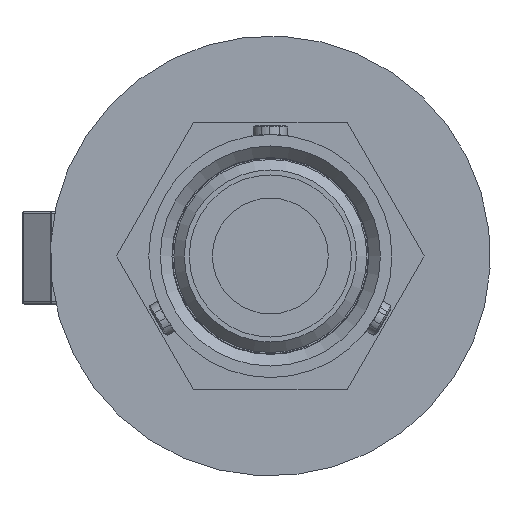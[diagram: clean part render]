
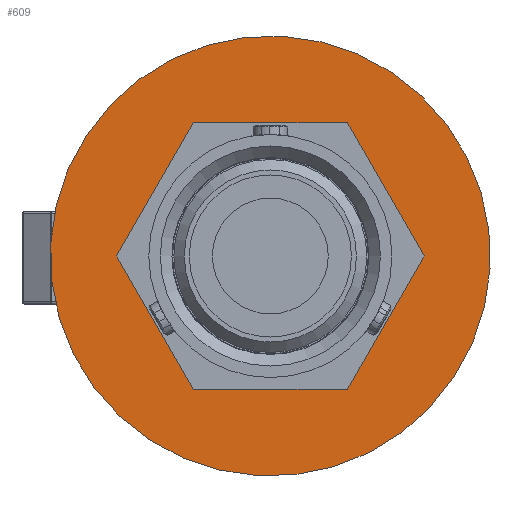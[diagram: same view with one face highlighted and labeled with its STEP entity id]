
A CAD part, front view. The second image highlights one B-rep face of the part: STEP entity #609.
In plain terms, the highlighted planar face has unit normal (0, -1, 0).
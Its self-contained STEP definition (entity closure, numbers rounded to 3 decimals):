
#218 = EDGE_CURVE ( 'NONE', #1722, #1722, #3651, .T. ) ;
#228 = ORIENTED_EDGE ( 'NONE', *, *, #2319, .F. ) ;
#410 = DIRECTION ( 'NONE',  ( -0.958, 0., -0.287 ) ) ;
#412 = ORIENTED_EDGE ( 'NONE', *, *, #218, .F. ) ;
#547 = CARTESIAN_POINT ( 'NONE',  ( -18.2, 195., -5.455 ) ) ;
#609 = ADVANCED_FACE ( 'NONE', ( #755, #2261 ), #780, .F. ) ;
#614 = CARTESIAN_POINT ( 'NONE',  ( 6.64, 195., -11.5 ) ) ;
#615 = EDGE_LOOP ( 'NONE', ( #228, #1128, #2694, #1565, #3175, #2483 ) ) ;
#632 = CARTESIAN_POINT ( 'NONE',  ( -6.64, 195., 11.5 ) ) ;
#755 = FACE_BOUND ( 'NONE', #615, .T. ) ;
#780 = PLANE ( 'NONE',  #3403 ) ;
#847 = DIRECTION ( 'NONE',  ( 0., 1., 0. ) ) ;
#1000 = LINE ( 'NONE', #4119, #1127 ) ;
#1059 = CARTESIAN_POINT ( 'NONE',  ( -6.64, 195., -11.5 ) ) ;
#1127 = VECTOR ( 'NONE', #2972, 1000. ) ;
#1128 = ORIENTED_EDGE ( 'NONE', *, *, #4444, .F. ) ;
#1344 = CARTESIAN_POINT ( 'NONE',  ( -6.64, 195., 11.5 ) ) ;
#1514 = EDGE_CURVE ( 'NONE', #2187, #2031, #4875, .T. ) ;
#1548 = DIRECTION ( 'NONE',  ( -0.958, 0., -0.287 ) ) ;
#1559 = CARTESIAN_POINT ( 'NONE',  ( 13.279, 195., 0. ) ) ;
#1565 = ORIENTED_EDGE ( 'NONE', *, *, #1514, .F. ) ;
#1712 = EDGE_CURVE ( 'NONE', #2230, #3855, #2669, .T. ) ;
#1722 = VERTEX_POINT ( 'NONE', #547 ) ;
#1777 = CARTESIAN_POINT ( 'NONE',  ( -13.279, 195., 0. ) ) ;
#2031 = VERTEX_POINT ( 'NONE', #3022 ) ;
#2058 = CARTESIAN_POINT ( 'NONE',  ( 6.64, 195., -11.5 ) ) ;
#2187 = VERTEX_POINT ( 'NONE', #1559 ) ;
#2188 = EDGE_LOOP ( 'NONE', ( #412 ) ) ;
#2230 = VERTEX_POINT ( 'NONE', #1059 ) ;
#2261 = FACE_OUTER_BOUND ( 'NONE', #2188, .T. ) ;
#2319 = EDGE_CURVE ( 'NONE', #2579, #2230, #2750, .T. ) ;
#2470 = EDGE_CURVE ( 'NONE', #3855, #2187, #2827, .T. ) ;
#2483 = ORIENTED_EDGE ( 'NONE', *, *, #1712, .F. ) ;
#2492 = CARTESIAN_POINT ( 'NONE',  ( 13.279, 195., 0. ) ) ;
#2541 = DIRECTION ( 'NONE',  ( -0.5, 0., 0.866 ) ) ;
#2543 = VERTEX_POINT ( 'NONE', #1344 ) ;
#2579 = VERTEX_POINT ( 'NONE', #1777 ) ;
#2663 = VECTOR ( 'NONE', #2541, 1000. ) ;
#2669 = LINE ( 'NONE', #3025, #3214 ) ;
#2694 = ORIENTED_EDGE ( 'NONE', *, *, #3550, .F. ) ;
#2703 = CARTESIAN_POINT ( 'NONE',  ( 0., 195., 0. ) ) ;
#2750 = LINE ( 'NONE', #5060, #4109 ) ;
#2827 = LINE ( 'NONE', #2058, #4184 ) ;
#2836 = LINE ( 'NONE', #632, #3047 ) ;
#2972 = DIRECTION ( 'NONE',  ( -1., 0., 0. ) ) ;
#3022 = CARTESIAN_POINT ( 'NONE',  ( 6.64, 195., 11.5 ) ) ;
#3025 = CARTESIAN_POINT ( 'NONE',  ( -6.64, 195., -11.5 ) ) ;
#3038 = DIRECTION ( 'NONE',  ( -0.5, 0., -0.866 ) ) ;
#3047 = VECTOR ( 'NONE', #3038, 1000. ) ;
#3051 = DIRECTION ( 'NONE',  ( 1., 0., 0. ) ) ;
#3175 = ORIENTED_EDGE ( 'NONE', *, *, #2470, .F. ) ;
#3214 = VECTOR ( 'NONE', #3051, 1000. ) ;
#3231 = DIRECTION ( 'NONE',  ( 0.5, 0., 0.866 ) ) ;
#3403 = AXIS2_PLACEMENT_3D ( 'NONE', #2703, #4672, #1548 ) ;
#3550 = EDGE_CURVE ( 'NONE', #2031, #2543, #1000, .T. ) ;
#3651 = CIRCLE ( 'NONE', #4303, 19. ) ;
#3855 = VERTEX_POINT ( 'NONE', #614 ) ;
#3888 = DIRECTION ( 'NONE',  ( 0.5, 0., -0.866 ) ) ;
#3901 = CARTESIAN_POINT ( 'NONE',  ( 0., 195., 0. ) ) ;
#4109 = VECTOR ( 'NONE', #3888, 1000. ) ;
#4119 = CARTESIAN_POINT ( 'NONE',  ( 6.64, 195., 11.5 ) ) ;
#4184 = VECTOR ( 'NONE', #3231, 1000. ) ;
#4303 = AXIS2_PLACEMENT_3D ( 'NONE', #3901, #847, #410 ) ;
#4444 = EDGE_CURVE ( 'NONE', #2543, #2579, #2836, .T. ) ;
#4672 = DIRECTION ( 'NONE',  ( 0., 1., 0. ) ) ;
#4875 = LINE ( 'NONE', #2492, #2663 ) ;
#5060 = CARTESIAN_POINT ( 'NONE',  ( -13.279, 195., 0. ) ) ;
